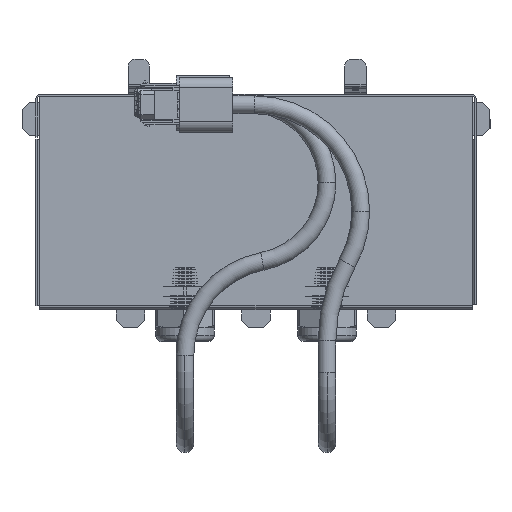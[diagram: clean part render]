
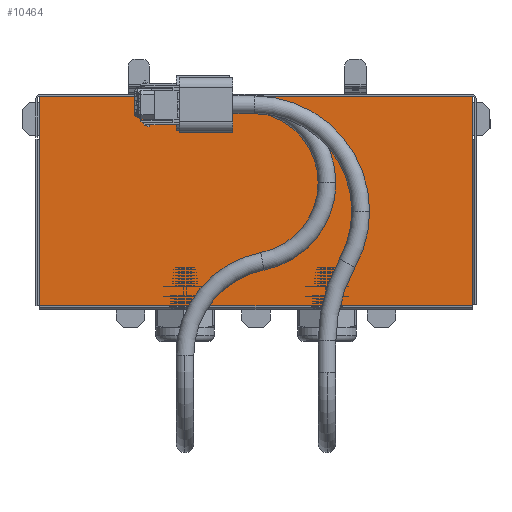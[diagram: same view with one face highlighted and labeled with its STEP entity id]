
A CAD part, front view. The second image highlights one B-rep face of the part: STEP entity #10464.
In plain terms, the highlighted planar face has unit normal (0, -1, 0).
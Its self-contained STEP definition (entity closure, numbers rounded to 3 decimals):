
#151 = EDGE_CURVE ( 'NONE', #2403, #2560, #25228, .T. ) ;
#1415 = LINE ( 'NONE', #8028, #8808 ) ;
#1719 = DIRECTION ( 'NONE',  ( 0., 0., 1. ) ) ;
#2403 = VERTEX_POINT ( 'NONE', #14592 ) ;
#2560 = VERTEX_POINT ( 'NONE', #24324 ) ;
#3421 = ORIENTED_EDGE ( 'NONE', *, *, #37789, .T. ) ;
#3994 = EDGE_LOOP ( 'NONE', ( #6263, #29344, #8816, #3421 ) ) ;
#4281 = CARTESIAN_POINT ( 'NONE',  ( 121.8, -45., 2.2 ) ) ;
#6263 = ORIENTED_EDGE ( 'NONE', *, *, #35847, .F. ) ;
#7468 = DIRECTION ( 'NONE',  ( -1., 0., 0. ) ) ;
#8028 = CARTESIAN_POINT ( 'NONE',  ( -121.8, -45., 0. ) ) ;
#8671 = CARTESIAN_POINT ( 'NONE',  ( 121.8, -45., 0. ) ) ;
#8808 = VECTOR ( 'NONE', #11123, 1000. ) ;
#8816 = ORIENTED_EDGE ( 'NONE', *, *, #151, .T. ) ;
#9720 = VECTOR ( 'NONE', #7468, 1000. ) ;
#10464 = ADVANCED_FACE ( 'NONE', ( #12077 ), #17797, .T. ) ;
#10680 = LINE ( 'NONE', #4281, #9720 ) ;
#11123 = DIRECTION ( 'NONE',  ( 0., 0., 1. ) ) ;
#12077 = FACE_OUTER_BOUND ( 'NONE', #3994, .T. ) ;
#14592 = CARTESIAN_POINT ( 'NONE',  ( 121.8, -45., 2.2 ) ) ;
#14886 = DIRECTION ( 'NONE',  ( 0., 0., -1. ) ) ;
#14893 = LINE ( 'NONE', #20531, #31125 ) ;
#17229 = CARTESIAN_POINT ( 'NONE',  ( -121.8, -45., 120. ) ) ;
#17797 = PLANE ( 'NONE',  #18532 ) ;
#18124 = VERTEX_POINT ( 'NONE', #35074 ) ;
#18532 = AXIS2_PLACEMENT_3D ( 'NONE', #8671, #33138, #14886 ) ;
#20531 = CARTESIAN_POINT ( 'NONE',  ( 121.8, -45., 120. ) ) ;
#24324 = CARTESIAN_POINT ( 'NONE',  ( 121.8, -45., 120. ) ) ;
#25228 = LINE ( 'NONE', #38638, #26188 ) ;
#26188 = VECTOR ( 'NONE', #1719, 1000. ) ;
#29344 = ORIENTED_EDGE ( 'NONE', *, *, #39462, .F. ) ;
#31125 = VECTOR ( 'NONE', #38748, 1000. ) ;
#33138 = DIRECTION ( 'NONE',  ( 0., -1., 0. ) ) ;
#35074 = CARTESIAN_POINT ( 'NONE',  ( -121.8, -45., 2.2 ) ) ;
#35847 = EDGE_CURVE ( 'NONE', #18124, #36504, #1415, .T. ) ;
#36504 = VERTEX_POINT ( 'NONE', #17229 ) ;
#37789 = EDGE_CURVE ( 'NONE', #2560, #36504, #14893, .T. ) ;
#38638 = CARTESIAN_POINT ( 'NONE',  ( 121.8, -45., 0. ) ) ;
#38748 = DIRECTION ( 'NONE',  ( -1., 0., 0. ) ) ;
#39462 = EDGE_CURVE ( 'NONE', #2403, #18124, #10680, .T. ) ;
